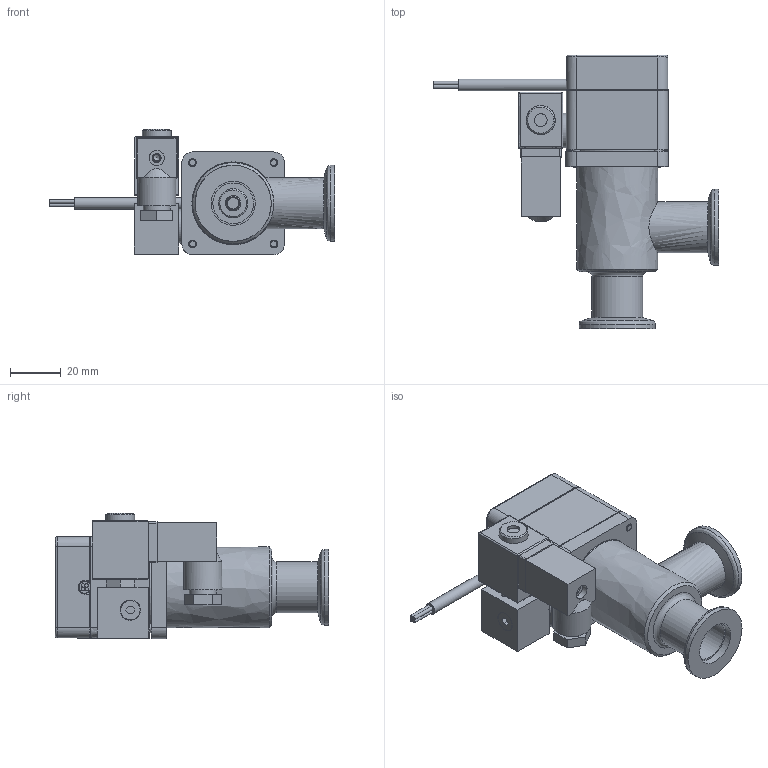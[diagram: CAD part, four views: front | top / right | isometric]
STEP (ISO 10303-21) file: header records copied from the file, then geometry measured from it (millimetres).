
FILE_DESCRIPTION((''),'2;1');
FILE_NAME('C:\TEMP\IDEAS\325487.stp','2006-09-19T14:03:14',('User'),( 'SDRC'),'I-DEAS Master Series 9','UNIX','Yes');
FILE_SCHEMA(('CONFIG_CONTROL_DESIGN'));
Length unit declared in the file: millimetre
Assembly tree (19 placements, depth 0):
Bounding box: 112.43 x 107.7 x 49.3 mm (x, y, z)
Volume: 44961 mm3; surface area: 57335.4 mm2
Topology: 15 solids, 20 shells, 692 faces, 1650 edges, 1067 vertices
Faces by surface type: bspline 692
Entity records: 21912 total; most frequent: CARTESIAN_POINT 11129, ORIENTED_EDGE 2863, EDGE_CURVE 1433, VERTEX_POINT 927, EDGE_LOOP 722, FACE_OUTER_BOUND 600, ADVANCED_FACE 600, QUASI_UNIFORM_CURVE 595
